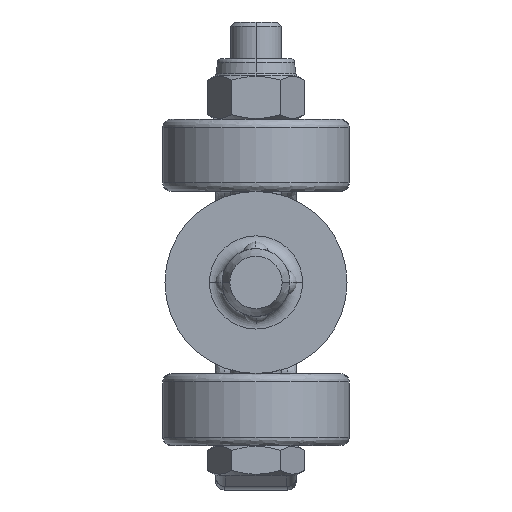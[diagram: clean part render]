
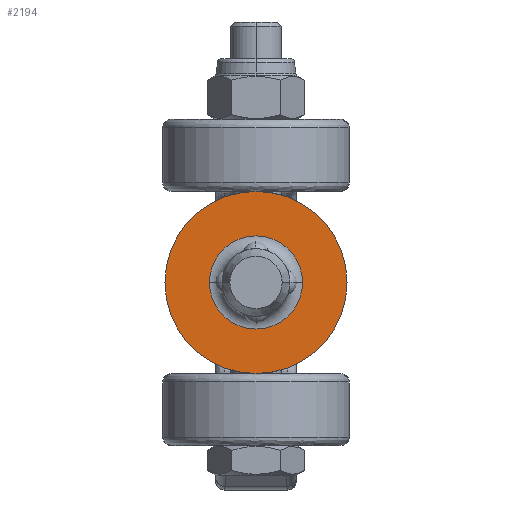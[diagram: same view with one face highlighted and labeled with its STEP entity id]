
A CAD part, front view. The second image highlights one B-rep face of the part: STEP entity #2194.
In plain terms, the highlighted planar face has unit normal (0, -1, 0) as drawn and (-1, 0, 0) by its records, which use the part's own axes.
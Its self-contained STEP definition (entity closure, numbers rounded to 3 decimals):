
#244 = AXIS2_PLACEMENT_3D ( 'NONE', #4757, #9281, #4712 ) ;
#276 = DIRECTION ( 'NONE',  ( 0., 0., 1. ) ) ;
#433 = FACE_BOUND ( 'NONE', #4468, .T. ) ;
#622 = EDGE_CURVE ( 'NONE', #7683, #8762, #6718, .T. ) ;
#853 = AXIS2_PLACEMENT_3D ( 'NONE', #4942, #9463, #4896 ) ;
#1035 = PLANE ( 'NONE',  #853 ) ;
#1139 = DIRECTION ( 'NONE',  ( 0., -1., 0. ) ) ;
#1722 = CARTESIAN_POINT ( 'NONE',  ( 0., -5.5, 0. ) ) ;
#1735 = DIRECTION ( 'NONE',  ( 1., 0., 0. ) ) ;
#2194 = ADVANCED_FACE ( 'NONE', ( #7160, #433 ), #1035, .F. ) ;
#2618 = AXIS2_PLACEMENT_3D ( 'NONE', #7840, #1735, #276 ) ;
#2735 = DIRECTION ( 'NONE',  ( 0., 0., 1. ) ) ;
#3198 = EDGE_CURVE ( 'NONE', #9515, #7695, #9570, .T. ) ;
#3707 = AXIS2_PLACEMENT_3D ( 'NONE', #9419, #6372, #1139 ) ;
#3713 = EDGE_CURVE ( 'NONE', #8762, #7683, #9437, .T. ) ;
#3764 = CARTESIAN_POINT ( 'NONE',  ( 0., 0., 10.75 ) ) ;
#4101 = CARTESIAN_POINT ( 'NONE',  ( 0., 0., -10.75 ) ) ;
#4238 = EDGE_LOOP ( 'NONE', ( #8481, #7803 ) ) ;
#4468 = EDGE_LOOP ( 'NONE', ( #6698, #5661 ) ) ;
#4712 = DIRECTION ( 'NONE',  ( 0., -1., 0. ) ) ;
#4757 = CARTESIAN_POINT ( 'NONE',  ( 0., 0., 0. ) ) ;
#4896 = DIRECTION ( 'NONE',  ( 0., 0., -1. ) ) ;
#4942 = CARTESIAN_POINT ( 'NONE',  ( 0., 6.5, 0. ) ) ;
#5661 = ORIENTED_EDGE ( 'NONE', *, *, #622, .F. ) ;
#5723 = EDGE_CURVE ( 'NONE', #7695, #9515, #7366, .T. ) ;
#5879 = CARTESIAN_POINT ( 'NONE',  ( 0., 0., 0. ) ) ;
#6372 = DIRECTION ( 'NONE',  ( -1., 0., 0. ) ) ;
#6698 = ORIENTED_EDGE ( 'NONE', *, *, #3713, .F. ) ;
#6718 = CIRCLE ( 'NONE', #3707, 5.5 ) ;
#6840 = CARTESIAN_POINT ( 'NONE',  ( 0., 5.5, 0. ) ) ;
#7160 = FACE_OUTER_BOUND ( 'NONE', #4238, .T. ) ;
#7366 = CIRCLE ( 'NONE', #7852, 10.75 ) ;
#7683 = VERTEX_POINT ( 'NONE', #6840 ) ;
#7695 = VERTEX_POINT ( 'NONE', #3764 ) ;
#7803 = ORIENTED_EDGE ( 'NONE', *, *, #3198, .F. ) ;
#7840 = CARTESIAN_POINT ( 'NONE',  ( 0., 0., 0. ) ) ;
#7852 = AXIS2_PLACEMENT_3D ( 'NONE', #5879, #8681, #2735 ) ;
#8481 = ORIENTED_EDGE ( 'NONE', *, *, #5723, .F. ) ;
#8681 = DIRECTION ( 'NONE',  ( 1., 0., 0. ) ) ;
#8762 = VERTEX_POINT ( 'NONE', #1722 ) ;
#9281 = DIRECTION ( 'NONE',  ( -1., 0., 0. ) ) ;
#9419 = CARTESIAN_POINT ( 'NONE',  ( 0., 0., 0. ) ) ;
#9437 = CIRCLE ( 'NONE', #244, 5.5 ) ;
#9463 = DIRECTION ( 'NONE',  ( 1., 0., 0. ) ) ;
#9515 = VERTEX_POINT ( 'NONE', #4101 ) ;
#9570 = CIRCLE ( 'NONE', #2618, 10.75 ) ;
